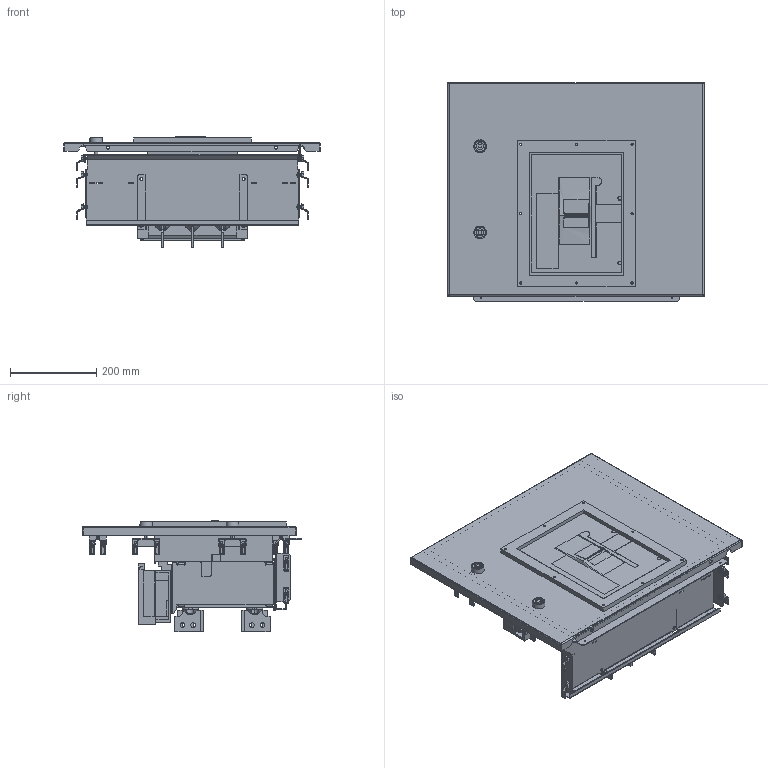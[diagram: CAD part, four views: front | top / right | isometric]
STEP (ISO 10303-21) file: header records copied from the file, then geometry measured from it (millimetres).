
FILE_DESCRIPTION(('CAx-IF Rec.Pracs.---Model Styling and Organization---1.2---2011-12-15','CAx-IF Rec.Pracs.---Geometric and Assembly Validation Properties---4.1---2014-06-16','CAx-IF Rec.Pracs.---PMI Polyline Presentation---2.0---2013-05-24'),'2;1');
FILE_NAME('R5PKEB7V61121.stp','2021-07-29T02:17:31+03:00',(''),(''),'STEP Interface 4.4 by CT CoreTechnologie','3D_Evolution4.4 by CT CoreTechnologie','');
FILE_SCHEMA(('AUTOMOTIVE_DESIGN { 1 0 10303 214 1 1 1 1 }'));
Length unit declared in the file: millimetre
Products named in the file (1): R5PKEB7V61121
Bounding box: 594 x 507.5 x 258 mm (x, y, z)
Surface area: 2250383.3 mm2 (no closed solid volume)
Topology: 0 solids, 71 shells, 3088 faces, 8198 edges, 5245 vertices
Faces by surface type: plane 1527, cylinder 1143, bspline 418
Full cylindrical faces by diameter (mm): 1 x1
Entity records: 106679 total; most frequent: CARTESIAN_POINT 30455, ORIENTED_EDGE 16186, DIRECTION 15578, EDGE_CURVE 8096, AXIS2_PLACEMENT_3D 5250, VERTEX_POINT 5241, VECTOR 5078, LINE 5078
